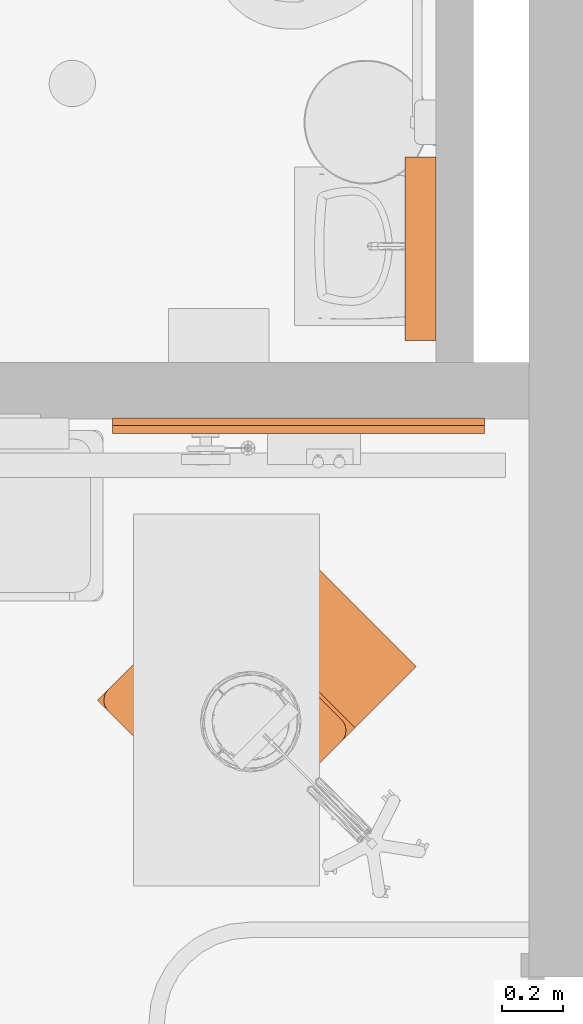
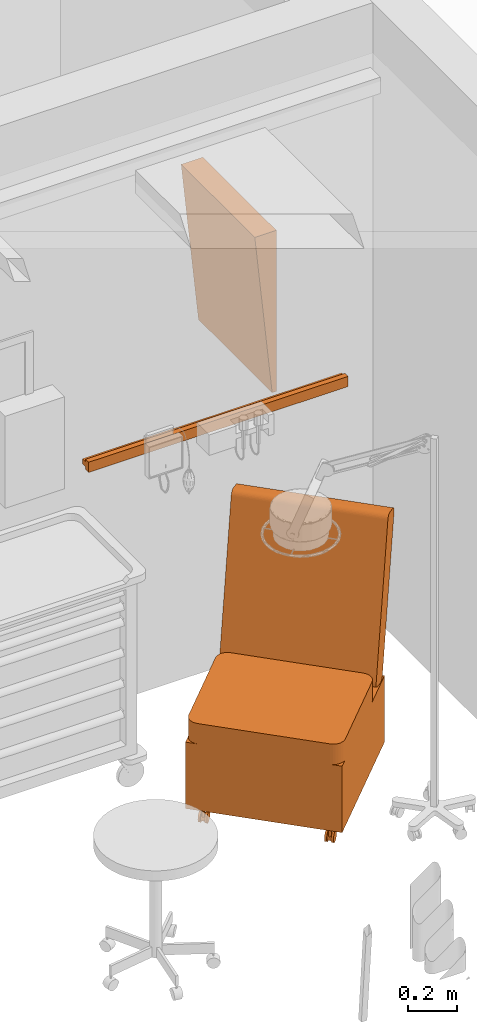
# One storey, part 68 of 142: 3 proxies.
"""IFC2X3 building model written with IfcOpenShell, lengths in feet."""

from ifc_helpers import new_model, entity, si_unit, converted_unit, derived_unit, direction, frame, frame_2d, origin, origin_2d_with_axis, place, context, subcontext, project, spatial, polyline, circle_curve, parameter, trimmed, segment, composite_curve, rectangle, circle, outline, extrude, source, transform, mapped, type_object, type_shapes, element, save


model = new_model("IFC2X3")

# Units and contexts
model_context = context("Model", 3, precision=0.0001, world=origin(), true_north=direction((6.12303176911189e-17, 1.0)))
body_context = subcontext(model_context, "Body", "Model", "MODEL_VIEW")
ifc_project = project(units=[converted_unit("LENGTHUNIT", "FOOT", entity("IfcRatioMeasure", 0.3048), si_unit("LENGTHUNIT", "METRE"), dimensions=[1, 0, 0, 0, 0, 0, 0]), converted_unit("AREAUNIT", "SQUARE FOOT", entity("IfcRatioMeasure", 0.09290304), si_unit("AREAUNIT", "SQUARE_METRE"), dimensions=[2, 0, 0, 0, 0, 0, 0]), converted_unit("VOLUMEUNIT", "CUBIC FOOT", entity("IfcRatioMeasure", 0.028316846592), si_unit("VOLUMEUNIT", "CUBIC_METRE"), dimensions=[3, 0, 0, 0, 0, 0, 0]), converted_unit("PLANEANGLEUNIT", "DEGREE", entity("IfcRatioMeasure", 0.0174532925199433), si_unit("PLANEANGLEUNIT", "RADIAN"), dimensions=[0, 0, 0, 0, 0, 0, 0]), si_unit("MASSUNIT", "GRAM", prefix="KILO"), derived_unit("MASSDENSITYUNIT", [(si_unit("MASSUNIT", "GRAM", prefix="KILO"), 1), (si_unit("LENGTHUNIT", "METRE"), -3)]), si_unit("TIMEUNIT", "SECOND"), si_unit("FREQUENCYUNIT", "HERTZ"), si_unit("THERMODYNAMICTEMPERATUREUNIT", "DEGREE_CELSIUS"), derived_unit("THERMALTRANSMITTANCEUNIT", [(si_unit("MASSUNIT", "GRAM", prefix="KILO"), 1), (si_unit("THERMODYNAMICTEMPERATUREUNIT", "KELVIN"), -1), (si_unit("TIMEUNIT", "SECOND"), -3)]), derived_unit("VOLUMETRICFLOWRATEUNIT", [(si_unit("LENGTHUNIT", "METRE"), 3), (si_unit("TIMEUNIT", "SECOND"), -1)]), si_unit("ELECTRICCURRENTUNIT", "AMPERE"), si_unit("ELECTRICVOLTAGEUNIT", "VOLT"), si_unit("POWERUNIT", "WATT"), si_unit("FORCEUNIT", "NEWTON"), si_unit("ILLUMINANCEUNIT", "LUX"), si_unit("LUMINOUSFLUXUNIT", "LUMEN"), si_unit("LUMINOUSINTENSITYUNIT", "CANDELA"), derived_unit("USERDEFINED", [(si_unit("MASSUNIT", "GRAM", prefix="KILO"), -1), (si_unit("LENGTHUNIT", "METRE"), -2), (si_unit("TIMEUNIT", "SECOND"), 3), (si_unit("LUMINOUSFLUXUNIT", "LUMEN"), 1)]), derived_unit("LINEARVELOCITYUNIT", [(si_unit("LENGTHUNIT", "METRE"), 1), (si_unit("TIMEUNIT", "SECOND"), -1)]), si_unit("PRESSUREUNIT", "PASCAL"), derived_unit("USERDEFINED", [(si_unit("LENGTHUNIT", "METRE"), -2), (si_unit("MASSUNIT", "GRAM", prefix="KILO"), 1), (si_unit("TIMEUNIT", "SECOND"), -2)])], contexts=[model_context])

# Site, building, storey, space
site_placement = place(None, origin())
site = spatial("IfcSite", under=ifc_project, at=site_placement, Name="Default", CompositionType="ELEMENT")
building_placement = place(site_placement, origin())
building = spatial("IfcBuilding", under=site, at=building_placement, Name="OUTPATIENT / PACT CLINIC (Ch. 265)", CompositionType="ELEMENT")
storey_placement = place(building_placement, origin())
storey = spatial("IfcBuildingStorey", under=building, at=storey_placement, Name="LEVEL 1", CompositionType="ELEMENT", Elevation=0.0)
space_1_placement = place(storey_placement, origin())
space_1 = spatial("IfcSpace", under=storey, at=space_1_placement, Name="TNPG1", CompositionType="ELEMENT", InteriorOrExteriorSpace="INTERNAL")

# Proxy
building_element_proxy_type_1 = type_object("IfcBuildingElementProxyType", Name="A1067 - Mirror, Float Glass, ADA Accessible 12\"x 6\"", PredefinedType="NOTDEFINED")
shared_shape_1 = source(origin(), body_context, "Body", "SweptSolid", [
    extrude(outline(polyline([(-1.31233595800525, -0.099737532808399), (1.31233595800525, -0.099737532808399), (1.31233595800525, -0.0341207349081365), (-1.31233595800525, 0.233595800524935), (-1.31233595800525, -0.099737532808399)])), frame((0.0, 0.0997375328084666, 1.31266404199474), z_axis=(1.0, 0.0, 0.0), x_axis=(0.0, 0.0, -1.0)), (0.0, 0.0, 1.0), 1.96850393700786),
])
type_shapes(building_element_proxy_type_1, [shared_shape_1])
proxy_1_placement = place(space_1_placement, frame((446.754976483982, -882.180914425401, 3.5), z_axis=(0.0, 0.0, 1.0), x_axis=(0.0, 1.0, 0.0)))
element("IfcBuildingElementProxy", 1, at=proxy_1_placement, inside=space_1, type_object=building_element_proxy_type_1, Name="A1067 - Mirror, Float Glass, ADA Accessible:A1067 - Mirror, Float Glass, ADA Accessible 12\"x 6\"", ObjectType="A1067 - Mirror, Float Glass, ADA Accessible 12\"x 6\"", context=body_context, shape_type="MappedRepresentation", body=[
    mapped(shared_shape_1, transform((0.0, 0.0, 0.0), scale=1.0)),
])

# Space
space_2_placement = place(storey_placement, origin())
space_2 = spatial("IfcSpace", under=storey, at=space_2_placement, Name="EXPA1", CompositionType="ELEMENT", InteriorOrExteriorSpace="INTERNAL")

# Proxies
building_element_proxy_type_2 = type_object("IfcBuildingElementProxyType", Name="Exam/Treatment Table with Cabinet", PredefinedType="NOTDEFINED")
shared_shape_2 = source(origin(), body_context, "Body", "SweptSolid", [
    extrude(circle(Radius=0.0833333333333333, at=frame_2d((0.0, -1.38777878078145e-16), x_axis=(1.0, 0.0))), frame((-0.843750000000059, 0.432291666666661, 0.0833333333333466), z_axis=(1.0, 0.0, 0.0), x_axis=(0.0, 1.0, 0.0)), (0.0, 0.0, 1.0), 0.0312500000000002),
    extrude(circle(Radius=0.0260416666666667, at=frame_2d((0.0, -5.55111512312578e-17), x_axis=(1.0, 0.0))), frame((-0.87500000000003, 0.463541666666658, 0.0801325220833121), z_axis=(0.0, 0.0, 1.0), x_axis=(-1.0, 0.0, 0.0)), (0.0, 0.0, 1.0), 0.211534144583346),
    extrude(circle(Radius=0.0625, at=frame_2d((0.0, -2.77555756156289e-16), x_axis=(1.0, 0.0))), frame((-0.90625000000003, 0.432291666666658, 0.0833333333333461), z_axis=(1.0, 0.0, 0.0), x_axis=(0.0, -1.0, 0.0)), (0.0, 0.0, 1.0), 0.0625),
    extrude(circle(Radius=0.0833333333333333, at=frame_2d((0.0, -1.38777878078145e-16), x_axis=(1.0, 0.0))), frame((-0.93750000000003, 0.432291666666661, 0.0833333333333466), z_axis=(1.0, 0.0, 0.0), x_axis=(0.0, 1.0, 0.0)), (0.0, 0.0, 1.0), 0.0312500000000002),
    extrude(circle(Radius=0.0833333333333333, at=frame_2d((0.0, -3.7470027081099e-16), x_axis=(1.0, 0.0))), frame((0.81250000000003, 0.432291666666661, 0.083333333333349), z_axis=(1.0, 0.0, 0.0), x_axis=(0.0, 1.0, 0.0)), (0.0, 0.0, 1.0), 0.0312500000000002),
    extrude(circle(Radius=0.0260416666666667, at=frame_2d((0.0, -5.55111512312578e-17), x_axis=(1.0, 0.0))), frame((0.875000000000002, 0.463541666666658, 0.0801325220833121)), (0.0, 0.0, 1.0), 0.211534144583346),
    extrude(circle(Radius=0.0625, at=frame_2d((0.0, -1.11022302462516e-16), x_axis=(1.0, 0.0))), frame((0.843750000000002, 0.432291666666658, 0.0833333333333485), z_axis=(1.0, 0.0, 0.0), x_axis=(0.0, -1.0, 0.0)), (0.0, 0.0, 1.0), 0.0625),
    extrude(circle(Radius=0.0833333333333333, at=frame_2d((0.0, -3.7470027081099e-16), x_axis=(1.0, 0.0))), frame((0.906250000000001, 0.432291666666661, 0.083333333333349), z_axis=(1.0, 0.0, 0.0), x_axis=(0.0, 1.0, 0.0)), (0.0, 0.0, 1.0), 0.0312500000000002),
    extrude(circle(Radius=0.0833333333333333, at=frame_2d((0.0, -1.38777878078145e-16), x_axis=(1.0, 0.0))), frame((-0.843750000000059, -1.41145833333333, 0.0833333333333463), z_axis=(1.0, 0.0, 0.0), x_axis=(0.0, -1.0, 0.0)), (0.0, 0.0, 1.0), 0.0312500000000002),
    extrude(circle(Radius=0.0260416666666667, at=origin_2d_with_axis()), frame((-0.87500000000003, -1.44270833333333, 0.0801325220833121), z_axis=(0.0, 0.0, 1.0), x_axis=(-1.0, 0.0, 0.0)), (0.0, 0.0, 1.0), 0.211534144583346),
    extrude(circle(Radius=0.0625, at=frame_2d((0.0, -2.77555756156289e-16), x_axis=(1.0, 0.0))), frame((-0.90625000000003, -1.41145833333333, 0.0833333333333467), z_axis=(1.0, 0.0, 0.0), x_axis=(0.0, 1.0, 0.0)), (0.0, 0.0, 1.0), 0.0625),
    extrude(circle(Radius=0.0833333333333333, at=frame_2d((0.0, -1.38777878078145e-16), x_axis=(1.0, 0.0))), frame((-0.93750000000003, -1.41145833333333, 0.0833333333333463), z_axis=(1.0, 0.0, 0.0), x_axis=(0.0, -1.0, 0.0)), (0.0, 0.0, 1.0), 0.0312500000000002),
    extrude(circle(Radius=0.0833333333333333, at=frame_2d((0.0, -3.7470027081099e-16), x_axis=(1.0, 0.0))), frame((0.81250000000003, -1.41145833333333, 0.0833333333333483), z_axis=(1.0, 0.0, 0.0), x_axis=(0.0, -1.0, 0.0)), (0.0, 0.0, 1.0), 0.0312500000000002),
    extrude(circle(Radius=0.0260416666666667, at=origin_2d_with_axis()), frame((0.875000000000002, -1.44270833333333, 0.0801325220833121)), (0.0, 0.0, 1.0), 0.211534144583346),
    extrude(circle(Radius=0.0625, at=frame_2d((0.0, -1.11022302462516e-16), x_axis=(1.0, 0.0))), frame((0.843750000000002, -1.41145833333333, 0.0833333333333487), z_axis=(1.0, 0.0, 0.0), x_axis=(0.0, 1.0, 0.0)), (0.0, 0.0, 1.0), 0.0625),
    extrude(circle(Radius=0.0833333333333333, at=frame_2d((0.0, -3.7470027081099e-16), x_axis=(1.0, 0.0))), frame((0.906250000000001, -1.41145833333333, 0.0833333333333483), z_axis=(1.0, 0.0, 0.0), x_axis=(0.0, -1.0, 0.0)), (0.0, 0.0, 1.0), 0.0312500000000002),
    extrude(rectangle(XDim=2.1666666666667, YDim=2.18316882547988, at=origin_2d_with_axis()), frame((0.0, -0.491748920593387, 0.291666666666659), z_axis=(0.0, 0.0, 1.0), x_axis=(-1.0, 0.0, 0.0)), (0.0, 0.0, 1.0), 1.08333333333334),
    extrude(outline(composite_curve([segment(trimmed(circle_curve(frame_2d((-0.221258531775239, -1.14772335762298), x_axis=(1.0, 0.0)), 0.0833333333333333), [parameter(255.0)], [parameter(345.0)], True, "PARAMETER"), True, "CONTINUOUS"), segment(polyline([(-0.140764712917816, -1.16929161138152), (0.462739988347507, 1.08301859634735)]), True, "CONTINUOUS"), segment(trimmed(circle_curve(frame_2d((0.382246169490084, 1.10458685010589), x_axis=(1.0, 0.0)), 0.0833333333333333), [parameter(345.000000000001)], [parameter(75.0000000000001)], True, "PARAMETER"), True, "CONTINUOUS"), segment(polyline([(0.403814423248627, 1.18508066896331), (0.242826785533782, 1.2282171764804)]), True, "CONTINUOUS"), segment(trimmed(circle_curve(frame_2d((0.221258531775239, 1.14772335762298), x_axis=(1.0, 0.0)), 0.0833333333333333), [parameter(74.9999999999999)], [parameter(165.0)], True, "PARAMETER"), True, "CONTINUOUS"), segment(polyline([(0.140764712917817, 1.16929161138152), (-0.462739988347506, -1.08301859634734)]), True, "CONTINUOUS"), segment(trimmed(circle_curve(frame_2d((-0.382246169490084, -1.10458685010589), x_axis=(1.0, 0.0)), 0.0833333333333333), [parameter(165.0)], [parameter(255.0)], True, "PARAMETER"), True, "CONTINUOUS"), segment(polyline([(-0.403814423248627, -1.18508066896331), (-0.242826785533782, -1.2282171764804)]), True, "CONTINUOUS")], self_intersect=False)), frame((-1.08333333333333, 0.632933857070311, 2.62668441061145), z_axis=(1.0, 0.0, 0.0), x_axis=(0.0, 1.0, 0.0)), (0.0, 0.0, 1.0), 2.16666666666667),
    extrude(outline(composite_curve([segment(polyline([(-0.916666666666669, -0.854166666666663), (0.91666666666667, -0.854166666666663)]), True, "CONTINUOUS"), segment(trimmed(circle_curve(frame_2d((0.916666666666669, -0.687499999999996), x_axis=(-1.0, 0.0)), 0.166666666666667), [parameter(90.0000000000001)], [parameter(180.0)], True, "PARAMETER"), True, "CONTINUOUS"), segment(polyline([(1.08333333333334, -0.687499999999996), (1.08333333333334, 0.687499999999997)]), True, "CONTINUOUS"), segment(trimmed(circle_curve(frame_2d((0.916666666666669, 0.687499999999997), x_axis=(-1.0, 0.0)), 0.166666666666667), [parameter(180.0)], [parameter(270.0)], True, "PARAMETER"), True, "CONTINUOUS"), segment(polyline([(0.916666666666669, 0.854166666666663), (-0.91666666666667, 0.854166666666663)]), True, "CONTINUOUS"), segment(trimmed(circle_curve(frame_2d((-0.916666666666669, 0.687499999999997), x_axis=(-1.0, 0.0)), 0.166666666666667), [parameter(270.0)], [parameter(0.0)], True, "PARAMETER"), True, "CONTINUOUS"), segment(polyline([(-1.08333333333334, 0.687499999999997), (-1.08333333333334, -0.687499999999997)]), True, "CONTINUOUS"), segment(trimmed(circle_curve(frame_2d((-0.916666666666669, -0.687499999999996), x_axis=(-1.0, 0.0)), 0.166666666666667), [parameter(0.0)], [parameter(90.0000000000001)], True, "PARAMETER"), True, "CONTINUOUS")], self_intersect=False)), frame((0.0, -0.729166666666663, 1.375), z_axis=(0.0, 0.0, 1.0), x_axis=(-1.0, 0.0, 0.0)), (0.0, 0.0, 1.0), 0.333333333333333),
])
type_shapes(building_element_proxy_type_2, [shared_shape_2])
proxy_2_placement = place(space_2_placement, frame((445.004061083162, -885.697345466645, 0.0260416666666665), z_axis=(0.0, 0.0, 1.0), x_axis=(0.707106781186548, -0.707106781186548, 0.0)))
element("IfcBuildingElementProxy", 2, at=proxy_2_placement, inside=space_2, type_object=building_element_proxy_type_2, Name="M9025 - Exam Table1:Exam/Treatment Table with Cabinet", ObjectType="Exam/Treatment Table with Cabinet", context=body_context, shape_type="MappedRepresentation", body=[
    mapped(shared_shape_2, transform((0.0, 0.0, 0.0), scale=1.0)),
])
building_element_proxy_type_3 = type_object("IfcBuildingElementProxyType", Name="A1132 - Rail, Accessory Mounting", PredefinedType="NOTDEFINED")
shared_shape_3 = source(origin(), body_context, "Body", "SweptSolid", [
    extrude(outline(polyline([(0.0416666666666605, 0.0), (0.0833333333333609, 0.0), (0.083333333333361, 0.0833333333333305), (-0.0833333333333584, 0.0833333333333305), (-0.0833333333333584, 0.0), (-0.0416666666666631, 0.0), (-0.0416666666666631, -0.0833333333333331), (0.0416666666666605, -0.0833333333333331), (0.0416666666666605, 0.0)])), frame((-2.0, -0.0833333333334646, 0.0833333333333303), z_axis=(1.0, 0.0, 0.0), x_axis=(0.0, 0.0, 1.0)), (0.0, 0.0, 1.0), 4.0),
])
type_shapes(building_element_proxy_type_3, [shared_shape_3])
proxy_3_placement = place(space_2_placement, frame((445.281018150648, -883.014810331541, 4.0)))
element("IfcBuildingElementProxy", 3, at=proxy_3_placement, inside=space_2, type_object=building_element_proxy_type_3, Name="A1132 - Rail, Accessory Mounting:A1132 - Rail, Accessory Mounting", ObjectType="A1132 - Rail, Accessory Mounting", context=body_context, shape_type="MappedRepresentation", body=[
    mapped(shared_shape_3, transform((0.0, 0.0, 0.0), scale=1.0)),
])

save(model, "model.ifc")
